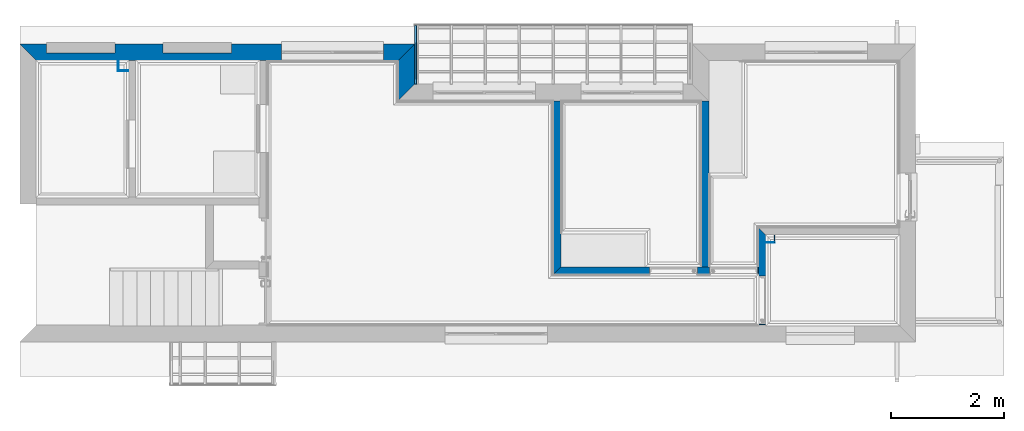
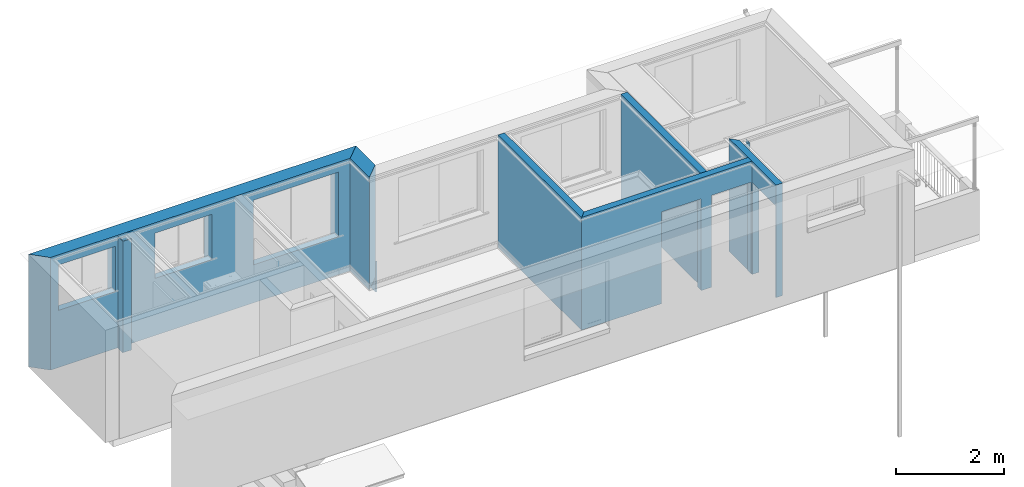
# One storey, part 3 of 18: 11 walls.
"""IFC2X3 building model written with IfcOpenShell, lengths in millimetres."""

from ifc_helpers import new_model, entity, si_unit, converted_unit, money_unit, direction, frame, origin_with_axes, place, context, subcontext, project, spatial, faceted_brep, material, material_list, type_object, element, save


model = new_model("IFC2X3")

# Units and contexts
model_context = context("Model", 3, precision=1e-05, world=origin_with_axes(), true_north=direction((0.0, 1.0)))
body_context = subcontext(model_context, "Body", "Model", "MODEL_VIEW")
ifc_project = project(units=[si_unit("LENGTHUNIT", "METRE", prefix="MILLI"), si_unit("AREAUNIT", "SQUARE_METRE"), si_unit("VOLUMEUNIT", "CUBIC_METRE"), converted_unit("PLANEANGLEUNIT", "DEGREE", entity("IfcPlaneAngleMeasure", 0.0174532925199), si_unit("PLANEANGLEUNIT", "RADIAN"), dimensions=[0, 0, 0, 0, 0, 0, 0]), si_unit("SOLIDANGLEUNIT", "STERADIAN"), money_unit("AUD"), si_unit("TIMEUNIT", "SECOND"), si_unit("MASSUNIT", "GRAM"), si_unit("THERMODYNAMICTEMPERATUREUNIT", "DEGREE_CELSIUS"), si_unit("LUMINOUSINTENSITYUNIT", "LUMEN")], contexts=[model_context])

# Site, building, storey
site_placement = place(None, origin_with_axes())
site = spatial("IfcSite", under=ifc_project, at=site_placement, Name="Lot 1. East Hills", CompositionType="ELEMENT")
building_placement = place(site_placement, origin_with_axes())
building = spatial("IfcBuilding", under=site, at=building_placement, Name="Proposed Units 7 & 8", CompositionType="ELEMENT")
storey_placement = place(building_placement, frame((0.0, 0.0, 5859.0), z_axis=(0.0, 0.0, 1.0), x_axis=(1.0, 0.0, 0.0)))
storey = spatial("IfcBuildingStorey", under=building, at=storey_placement, Name="Level 1", CompositionType="ELEMENT", Elevation=5859.0)

# Walls
ifc_material_1 = material(Name="Empty Fill")
wall_type_1 = type_object("IfcWallType", Name="Empty Fill 13", PredefinedType="NOTDEFINED")
wall_1_placement = place(storey_placement, frame((13339.9999991, 1883.00104314, 0.0), z_axis=(0.0, 0.0, 1.0), x_axis=(0.0, -1.0, 0.0)))
element("IfcWall", 1, at=wall_1_placement, inside=storey, type_object=wall_type_1, material=ifc_material_1, Name="Wall007 Empty Fill Wall", context=body_context, shape_type="Brep", body=[
    faceted_brep([(122.000099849, -13.0, 2507.0), (135.000099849, 0.0, 2507.0), (0.0, 0.0, 2507.0), (0.0, -13.0, 2507.0), (122.000099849, -13.0, 0.0), (135.000099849, 0.0, 0.0), (0.0, 0.0, 0.0), (0.0, -13.0, 0.0)], [[[0, 1, 2, 3]], [[1, 0, 4, 5]], [[1, 5, 6, 2]], [[2, 6, 7, 3]], [[4, 0, 3, 7]], [[5, 4, 7, 6]]]),
])
wall_2_placement = place(storey_placement, frame((13050.0002178, 1748.00094329, 0.0), z_axis=(0.0, 0.0, 1.0), x_axis=(1.0, 0.0, 0.0)))
element("IfcWall", 2, at=wall_2_placement, inside=storey, type_object=wall_type_1, material=ifc_material_1, Name="Wall007 Empty Fill Wall", context=body_context, shape_type="Brep", body=[
    faceted_brep([(289.999781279, 0.0, 0.0), (289.999781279, 0.0, 2507.0), (139.999999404, 0.0, 2507.0), (139.999999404, 0.0, 0.0), (276.999781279, 13.0, 2507.0), (276.999781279, 13.0, 0.0), (140.000013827, 13.0, 2507.0), (140.000013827, 13.0, 0.0)], [[[0, 1, 2, 3]], [[4, 1, 0, 5]], [[1, 4, 6, 2]], [[2, 6, 7, 3]], [[5, 0, 3, 7]], [[4, 5, 7, 6]]]),
])
wall_3_placement = place(storey_placement, frame((1915.0, 4783.00000067, 0.0), z_axis=(0.0, 0.0, 1.0), x_axis=(-1.0, 0.0, 0.0)))
element("IfcWall", 3, at=wall_3_placement, inside=storey, type_object=wall_type_1, material=ifc_material_1, Name="Wall007 Empty Fill Wall", context=body_context, shape_type="Brep", body=[
    faceted_brep([(172.0, -13.0, 0.0), (172.0, -13.0, 2507.0), (0.0, -13.0, 2507.0), (0.0, -13.0, 0.0), (185.0, 0.0, 2507.0), (185.0, 0.0, 0.0), (0.0, 0.0, 2507.0), (0.0, 0.0, 0.0)], [[[0, 1, 2, 3]], [[4, 1, 0, 5]], [[1, 4, 6, 2]], [[6, 7, 3, 2]], [[5, 0, 3, 7]], [[4, 5, 7, 6]]]),
])
wall_4_placement = place(storey_placement, frame((1730.0, 5263.0, 0.0), z_axis=(0.0, 0.0, 1.0), x_axis=(0.0, -1.0, 0.0)))
element("IfcWall", 4, at=wall_4_placement, inside=storey, type_object=wall_type_1, material=ifc_material_1, Name="Wall007 Empty Fill Wall", context=body_context, shape_type="Brep", body=[
    faceted_brep([(479.999999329, 0.0, 2507.0), (466.999999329, 13.0, 2507.0), (294.999998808, 13.0, 2507.0), (294.999998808, 0.0, 2507.0), (479.999999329, 0.0, 0.0), (466.999999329, 13.0, 0.0), (294.999998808, 13.0, 0.0), (294.999998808, 0.0, 0.0)], [[[0, 1, 2, 3]], [[1, 0, 4, 5]], [[1, 5, 6, 2]], [[3, 2, 6, 7]], [[4, 0, 3, 7]], [[5, 4, 7, 6]]]),
])
ifc_material_2 = material(Name="Brickwork Faced")
ifc_material_3 = material(Name="Cavity")
ifc_material_4 = material(Name="Cement Render")
ifc_material_list_1 = material_list([ifc_material_2, ifc_material_3, ifc_material_2, ifc_material_4])
wall_type_2 = type_object("IfcWallType", Name="Cavity wall 280 295", PredefinedType="NOTDEFINED")
wall_5_placement = place(storey_placement, frame((6975.0, 5263.0, 0.0), z_axis=(0.0, 0.0, 1.0), x_axis=(0.0, -1.0, 0.0)))
element("IfcWall", 5, at=wall_5_placement, inside=storey, type_object=wall_type_2, material=ifc_material_list_1, Name="EXT-WALL-102 Cavity wall 280 Wall", context=body_context, shape_type="Brep", body=[
    faceted_brep([(1004.99999881, -294.999998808, 2536.0), (710.0, 0.0, 2536.0), (0.0, 0.0, 2536.0), (294.999998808, -294.999998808, 2536.0), (1004.99999881, -294.999998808, 0.0), (710.0, 0.0, 0.0), (0.0, 0.0, 0.0), (294.999998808, -294.999998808, 0.0)], [[[0, 1, 2, 3]], [[1, 0, 4, 5]], [[1, 5, 6, 2]], [[3, 2, 6, 7]], [[4, 0, 3, 7]], [[5, 4, 7, 6]]]),
])
wall_6_placement = place(storey_placement, frame((6975.0, 5263.0, 0.0), z_axis=(0.0, 0.0, 1.0), x_axis=(-1.0, 0.0, 0.0)))
element("IfcWall", 6, at=wall_6_placement, inside=storey, type_object=wall_type_2, material=ifc_material_list_1, Name="EXT-WALL-101 Cavity wall 280 Wall", context=body_context, shape_type="Brep", body=[
    faceted_brep([(0.0, 0.0, 0.0), (6975.0, 0.0, 0.0), (6975.0, 0.0, 2536.0), (0.0, 0.0, 2536.0), (6505.03569864, 0.0, 1140.05078588), (5295.03569864, 0.0, 1140.05078588), (5295.03569864, 0.0, 1286.0), (5295.03569864, 0.0, 2306.0), (6505.03569864, 0.0, 2306.0), (6505.03569864, 0.0, 1286.0), (547.500000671, 0.0, 2314.0), (2357.50000067, 0.0, 2314.0), (2357.50000067, 0.0, 711.050785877), (547.500000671, 0.0, 711.050785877), (3240.0, 0.0, 1140.05078588), (3240.0, 0.0, 2306.0), (4450.0, 0.0, 2306.0), (4450.0, 0.0, 1140.05078588), (294.999998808, 294.999998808, 0.0), (6680.00000119, 294.999998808, 0.0), (6680.00000119, 294.999998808, 2536.0), (294.999998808, 294.999998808, 2536.0), (6505.03569864, 157.504447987, 1140.05078588), (5295.03569864, 157.504447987, 1140.05078588), (5295.03569864, 157.504447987, 1286.0), (5295.03569864, 120.0, 1286.0), (5295.03569864, 120.0, 2306.0), (6505.03569864, 120.0, 2306.0), (6505.03569864, 120.0, 1286.0), (6505.03569864, 157.504447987, 1286.0), (2357.50000067, 120.0, 2314.0), (547.500000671, 120.0, 2314.0), (2357.50000067, 120.0, 857.0), (2357.50000067, 157.504447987, 857.0), (2357.50000067, 157.504447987, 711.050785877), (547.500000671, 157.504447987, 711.050785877), (547.500000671, 157.504447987, 857.0), (547.500000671, 120.0, 857.0), (3240.0, 157.504447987, 1286.0), (3240.0, 120.0, 1286.0), (3240.0, 120.0, 2306.0), (3240.0, 157.504447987, 1140.05078588), (4450.0, 120.0, 2306.0), (4450.0, 120.0, 1286.0), (4450.0, 157.504447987, 1286.0), (4450.0, 157.504447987, 1140.05078588), (4450.0, 294.999998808, 1286.0), (4450.0, 294.999998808, 2306.0), (3240.0, 294.999998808, 2306.0), (3240.0, 294.999998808, 1286.0), (2357.50000067, 294.999998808, 2314.0), (547.500000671, 294.999998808, 2314.0), (547.500000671, 294.999998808, 857.0), (2357.50000067, 294.999998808, 857.0), (5295.03569864, 294.999998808, 1286.0), (6505.03569864, 294.999998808, 1286.0), (6505.03569864, 294.999998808, 2306.0), (5295.03569864, 294.999998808, 2306.0)], [[[0, 1, 2, 3], [4, 5, 6, 7, 8, 9], [10, 11, 12, 13], [14, 15, 16, 17]], [[18, 19, 1, 0]], [[19, 20, 2, 1]], [[3, 2, 20, 21]], [[0, 3, 21, 18]], [[5, 4, 22, 23]], [[6, 5, 23, 24, 25, 26, 7]], [[7, 26, 27, 8]], [[28, 29, 22, 4, 9, 8, 27]], [[30, 11, 10, 31]], [[32, 33, 34, 12, 11, 30]], [[34, 35, 13, 12]], [[10, 13, 35, 36, 37, 31]], [[38, 39, 40, 15, 14, 41]], [[40, 42, 16, 15]], [[17, 16, 42, 43, 44, 45]], [[17, 45, 41, 14]], [[21, 20, 19, 18], [46, 47, 48, 49], [50, 51, 52, 53], [54, 55, 56, 57]], [[29, 24, 23, 22]], [[25, 24, 54, 57, 26]], [[56, 27, 26, 57]], [[29, 28, 27, 56, 55]], [[31, 51, 50, 30]], [[53, 33, 32, 30, 50]], [[35, 34, 33, 36]], [[31, 37, 36, 52, 51]], [[49, 48, 40, 39, 38]], [[38, 41, 45, 44]], [[42, 40, 48, 47]], [[42, 47, 46, 44, 43]], [[44, 46, 49, 38]], [[53, 52, 36, 33]], [[24, 29, 55, 54]]]),
])
ifc_material_list_2 = material_list([ifc_material_4, ifc_material_2, ifc_material_4])
wall_type_3 = type_object("IfcWallType", Name="Solid Brick Render Both Side 140 140", PredefinedType="NOTDEFINED")
wall_7_placement = place(storey_placement, frame((13049.9982763, -2.01449475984, 0.0), z_axis=(0.0, 0.0, 1.0), x_axis=(1.1094337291e-06, 0.999999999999, 0.0)))
element("IfcWall", 7, at=wall_7_placement, inside=storey, type_object=wall_type_3, material=ifc_material_list_2, Name="Wall007 Solid Brick Render Both Side 140 Wall", context=body_context, shape_type="Brep", body=[
    faceted_brep([(315.000015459, -139.999999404, 0.0), (315.000015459, -139.999999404, 2067.0), (1165.00001546, -139.999999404, 2067.0), (1165.00001546, -139.999999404, 0.0), (1885.01464941, -139.999999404, 0.0), (1885.01464941, -139.999999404, 2536.0), (295.000015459, -139.999999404, 2536.0), (295.000015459, -139.999999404, 0.0), (315.000015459, 0.0, 0.0), (315.000015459, 0.0, 2067.0), (1165.00001546, 0.0, 2067.0), (1165.00001546, 0.0, 0.0), (2025.01449349, 0.0, 0.0), (2025.01449349, 0.0, 2536.0), (295.000015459, 0.0, 2536.0), (295.000015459, 0.0, 0.0)], [[[0, 1, 2, 3, 4, 5, 6, 7]], [[1, 0, 8, 9]], [[2, 1, 9, 10]], [[3, 2, 10, 11]], [[3, 11, 12, 4]], [[12, 13, 5, 4]], [[6, 5, 13, 14]], [[15, 7, 6, 14]], [[8, 0, 7, 15]], [[9, 8, 15, 14, 13, 12, 11, 10]]]),
])
wall_8_placement = place(storey_placement, frame((9419.99999955, 1183.00000045, 0.0), z_axis=(0.0, 0.0, 1.0), x_axis=(0.0, 1.0, 0.0)))
element("IfcWall", 8, at=wall_8_placement, inside=storey, type_object=wall_type_3, material=ifc_material_list_2, Name="Wall008 Solid Brick Render Both Side 140 Wall", context=body_context, shape_type="Brep", body=[
    faceted_brep([(3075.00000075, -139.999999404, 0.0), (3075.00000075, -139.999999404, 2536.0), (139.999999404, -139.999999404, 2536.0), (139.999999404, -139.999999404, 0.0), (3075.00000075, 0.0, 2536.0), (3075.00000075, 0.0, 0.0), (0.0, 0.0, 2536.0), (0.0, 0.0, 0.0)], [[[0, 1, 2, 3]], [[4, 1, 0, 5]], [[1, 4, 6, 2]], [[2, 6, 7, 3]], [[5, 0, 3, 7]], [[4, 5, 7, 6]]]),
])
wall_9_placement = place(storey_placement, frame((13049.999591, 1183.00000045, 0.0), z_axis=(0.0, 0.0, 1.0), x_axis=(-1.0, 0.0, 0.0)))
element("IfcWall", 9, at=wall_9_placement, inside=storey, type_object=wall_type_3, material=ifc_material_list_2, Name="Wall007 Solid Brick Render Both Side 140 Wall", context=body_context, shape_type="Brep", body=[
    faceted_brep([(1927.49959094, -139.999999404, 2067.0), (1927.49959094, -139.999999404, 0.0), (3489.99959206, -139.999999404, 0.0), (3489.99959206, -139.999999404, 2536.0), (0.0, -139.999999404, 2536.0), (0.0, -139.999999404, 0.0), (12.4998446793, -139.999999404, 0.0), (12.4998446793, -139.999999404, 2067.0), (862.499844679, -139.999999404, 2067.0), (862.499844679, -139.999999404, 0.0), (1077.49959094, -139.999999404, 0.0), (1077.49959094, -139.999999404, 2067.0), (1927.49959094, 0.0, 2067.0), (1927.49959094, 0.0, 0.0), (3629.99959146, 0.0, 0.0), (3629.99959146, 0.0, 2536.0), (0.0, 0.0, 2536.0), (0.0, 0.0, 0.0), (12.4998446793, 0.0, 0.0), (12.4998446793, 0.0, 2067.0), (862.499844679, 0.0, 2067.0), (862.499844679, 0.0, 0.0), (1077.49959094, 0.0, 0.0), (1077.49959094, 0.0, 2067.0)], [[[0, 1, 2, 3, 4, 5, 6, 7, 8, 9, 10, 11]], [[1, 0, 12, 13]], [[1, 13, 14, 2]], [[2, 14, 15, 3]], [[16, 4, 3, 15]], [[5, 4, 16, 17]], [[17, 18, 6, 5]], [[19, 7, 6, 18]], [[20, 8, 7, 19]], [[21, 9, 8, 20]], [[22, 10, 9, 21]], [[11, 10, 22, 23]], [[0, 11, 23, 12]], [[23, 22, 21, 20, 19, 18, 17, 16, 15, 14, 13, 12]]]),
])
wall_10_placement = place(storey_placement, frame((12174.9999988, 4258.00000119, 0.0), z_axis=(0.0, 0.0, 1.0), x_axis=(2.18066143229e-10, -1.0, 0.0)))
element("IfcWall", 10, at=wall_10_placement, inside=storey, type_object=wall_type_3, material=ifc_material_list_2, Name="Wall006 Solid Brick Render Both Side 140 Wall", context=body_context, shape_type="Brep", body=[
    faceted_brep([(2935.00000131, -139.999999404, 2536.0), (2935.00000134, 0.0, 2536.0), (0.0, 0.0, 2536.0), (0.0, -139.999999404, 2536.0), (2935.00000134, 0.0, 0.0), (2935.00000131, -139.999999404, 0.0), (0.0, 0.0, 0.0), (0.0, -139.999999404, 0.0)], [[[0, 1, 2, 3]], [[4, 1, 0, 5]], [[1, 4, 6, 2]], [[2, 6, 7, 3]], [[5, 0, 3, 7]], [[4, 5, 7, 6]]]),
])
wall_type_4 = type_object("IfcWallType", Name="Empty Fill 35", PredefinedType="NOTDEFINED")
wall_11_placement = place(storey_placement, frame((6976.0, 5588.73573739, -331.797689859), z_axis=(0.0, 0.0, 1.0), x_axis=(0.0, -1.0, 0.0)))
element("IfcWall", 11, at=wall_11_placement, inside=storey, type_object=wall_type_4, material=ifc_material_1, Name="Wall006 Empty Fill Wall", context=body_context, shape_type="Brep", body=[
    faceted_brep([(0.0, 0.0, 91.4554373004), (0.0, 35.0, 91.4554373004), (0.0, 35.0, 0.0), (0.0, 0.0, 0.0), (1035.73573739, 35.0, 689.437744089), (1035.73573739, 0.0, 689.437744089), (1035.73573739, 35.0, 0.0), (1035.73573739, 0.0, 0.0)], [[[0, 1, 2, 3]], [[4, 1, 0, 5]], [[1, 4, 6, 2]], [[3, 2, 6, 7]], [[5, 0, 3, 7]], [[4, 5, 7, 6]]]),
])

save(model, "model.ifc")
